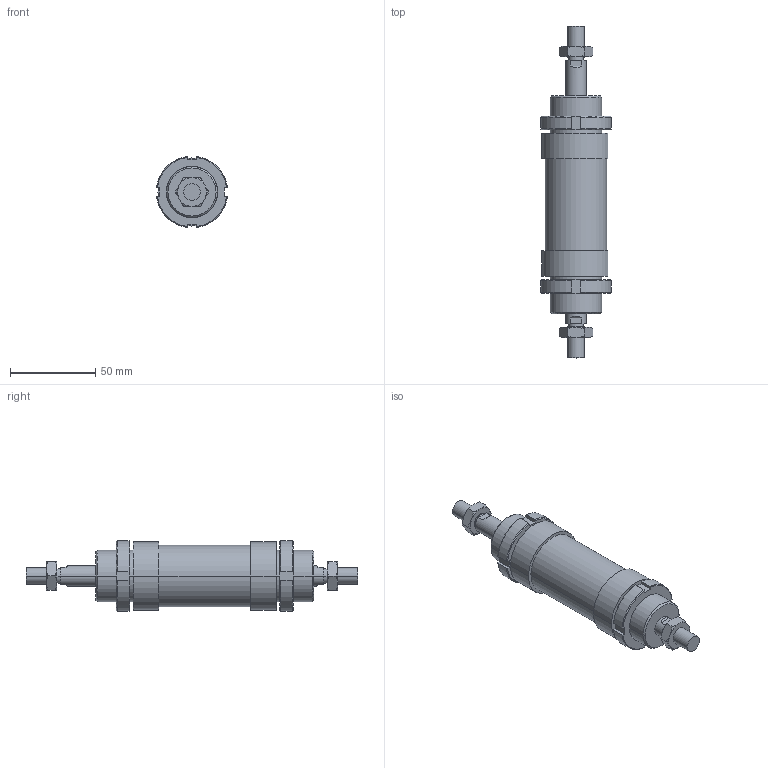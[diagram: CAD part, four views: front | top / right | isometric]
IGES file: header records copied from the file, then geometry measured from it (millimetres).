
Global section: file name: No Iges File Name specified; native system: AutoDesk Inventor R6.0; preprocessor: AutoDesk Inventor Iges Exporter R6.0; author: No Author specified; organization: No Organization specified; date: 20030403.072605; units: millimetre
Bounding box: 41.7 x 195 x 41.7 mm (x, y, z)
Volume: 141563.2 mm3; surface area: 37342.1 mm2
Topology: 6 solids, 6 shells, 182 faces, 424 edges, 264 vertices
Faces by surface type: plane 66, cone 52, bspline 30, cylinder 28, revolution 6
